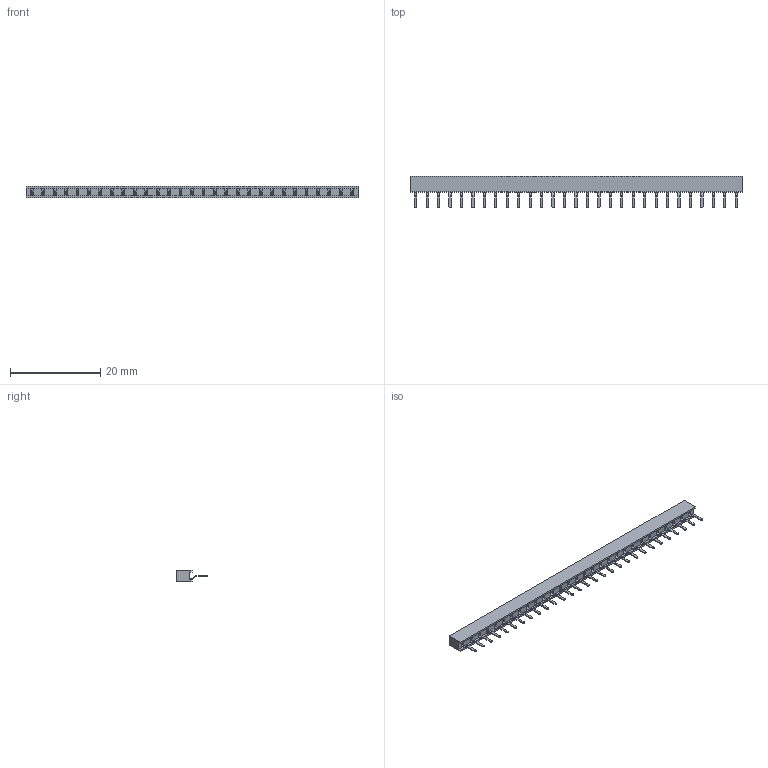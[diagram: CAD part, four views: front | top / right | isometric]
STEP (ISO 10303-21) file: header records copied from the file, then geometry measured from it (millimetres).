
FILE_DESCRIPTION(/* description */ (''),/* implementation_level */ '2;1');
FILE_NAME(/* name */ 'PM254-1-29-Z-3.5-XX(L7.0) (2.54 单排 直排母 塑高3.5-HCTL).stp',/* time_stamp */ '2026-10-24T16:49:39+08:00',/* author */ (''),/* organization */ (''),/* preprocessor_version */ 'ST-DEVELOPER v16',/* originating_system */ 'SIEMENS PLM Software NX 10.0',/* authorisation */ '');
FILE_SCHEMA (('AUTOMOTIVE_DESIGN { 1 0 10303 214 3 1 1 1 }'));
Length unit declared in the file: millimetre
Products named in the file (1): PM254-1-N-Z-3.5-XX(L7.0) (2.54 单排 直排母 
塑高3.5-HCTL)
Bounding box: 73.66 x 7 x 2.5 mm (x, y, z)
Volume: 513.3 mm3; surface area: 1450.1 mm2
Topology: 2 solids, 2 shells, 764 faces, 2108 edges, 1348 vertices
Faces by surface type: plane 619, cylinder 145
Entity records: 24011 total; most frequent: CARTESIAN_POINT 4221, ORIENTED_EDGE 4216, DIRECTION 3928, EDGE_CURVE 2108, LINE 1818, VECTOR 1818, VERTEX_POINT 1348, AXIS2_PLACEMENT_3D 1055
